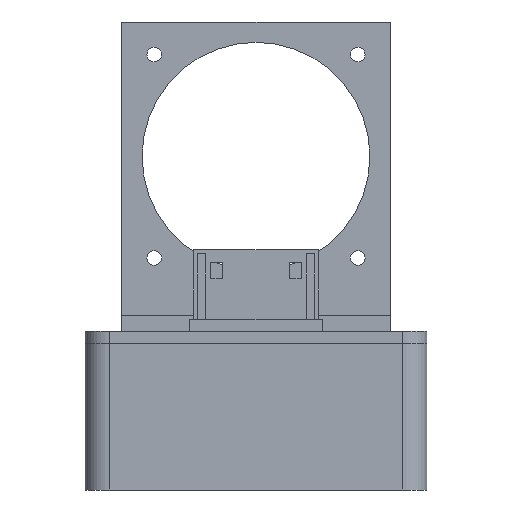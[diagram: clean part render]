
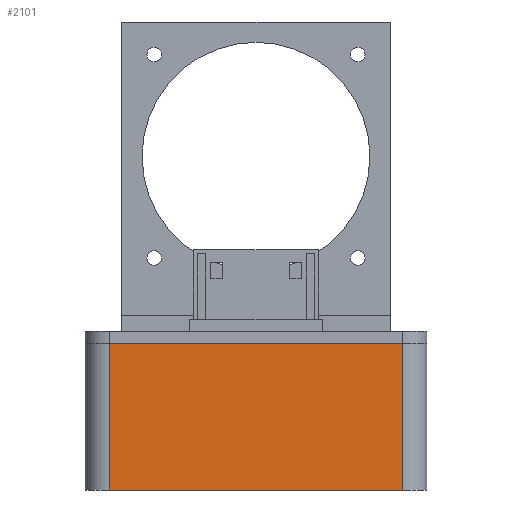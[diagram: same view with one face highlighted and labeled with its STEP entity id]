
A CAD part, front view. The second image highlights one B-rep face of the part: STEP entity #2101.
In plain terms, the highlighted planar face has unit normal (0, -1, 0).
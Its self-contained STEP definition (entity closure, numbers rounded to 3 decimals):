
#82 = PLANE('',#83);
#83 = AXIS2_PLACEMENT_3D('',#84,#85,#86);
#84 = CARTESIAN_POINT('',(-42.,-83.,36.));
#85 = DIRECTION('',(0.,0.,1.));
#86 = DIRECTION('',(1.,0.,0.));
#110 = CYLINDRICAL_SURFACE('',#111,6.);
#111 = AXIS2_PLACEMENT_3D('',#112,#113,#114);
#112 = CARTESIAN_POINT('',(-36.,-77.,0.));
#113 = DIRECTION('',(0.,0.,1.));
#114 = DIRECTION('',(-1.,-0.,0.));
#138 = PLANE('',#139);
#139 = AXIS2_PLACEMENT_3D('',#140,#141,#142);
#140 = CARTESIAN_POINT('',(-42.,-83.,0.));
#141 = DIRECTION('',(0.,0.,1.));
#142 = DIRECTION('',(1.,0.,0.));
#432 = VERTEX_POINT('',#433);
#433 = CARTESIAN_POINT('',(-36.,-83.,36.));
#455 = EDGE_CURVE('',#432,#456,#458,.T.);
#456 = VERTEX_POINT('',#457);
#457 = CARTESIAN_POINT('',(36.,-83.,36.));
#458 = SURFACE_CURVE('',#459,(#463,#470),.PCURVE_S1.);
#459 = LINE('',#460,#461);
#460 = CARTESIAN_POINT('',(-42.,-83.,36.));
#461 = VECTOR('',#462,1.);
#462 = DIRECTION('',(1.,0.,0.));
#463 = PCURVE('',#82,#464);
#464 = DEFINITIONAL_REPRESENTATION('',(#465),#469);
#465 = LINE('',#466,#467);
#466 = CARTESIAN_POINT('',(0.,0.));
#467 = VECTOR('',#468,1.);
#468 = DIRECTION('',(1.,0.));
#469 = ( GEOMETRIC_REPRESENTATION_CONTEXT(2) 
PARAMETRIC_REPRESENTATION_CONTEXT() REPRESENTATION_CONTEXT('2D SPACE',''
  ) );
#470 = PCURVE('',#471,#476);
#471 = PLANE('',#472);
#472 = AXIS2_PLACEMENT_3D('',#473,#474,#475);
#473 = CARTESIAN_POINT('',(-42.,-83.,0.));
#474 = DIRECTION('',(0.,1.,0.));
#475 = DIRECTION('',(0.,0.,1.));
#476 = DEFINITIONAL_REPRESENTATION('',(#477),#481);
#477 = LINE('',#478,#479);
#478 = CARTESIAN_POINT('',(36.,0.));
#479 = VECTOR('',#480,1.);
#480 = DIRECTION('',(0.,1.));
#481 = ( GEOMETRIC_REPRESENTATION_CONTEXT(2) 
PARAMETRIC_REPRESENTATION_CONTEXT() REPRESENTATION_CONTEXT('2D SPACE',''
  ) );
#504 = CYLINDRICAL_SURFACE('',#505,6.);
#505 = AXIS2_PLACEMENT_3D('',#506,#507,#508);
#506 = CARTESIAN_POINT('',(36.,-77.,0.));
#507 = DIRECTION('',(0.,0.,1.));
#508 = DIRECTION('',(1.,0.,-0.));
#997 = VERTEX_POINT('',#998);
#998 = CARTESIAN_POINT('',(-36.,-83.,0.));
#1020 = EDGE_CURVE('',#997,#432,#1021,.T.);
#1021 = SURFACE_CURVE('',#1022,(#1026,#1033),.PCURVE_S1.);
#1022 = LINE('',#1023,#1024);
#1023 = CARTESIAN_POINT('',(-36.,-83.,0.));
#1024 = VECTOR('',#1025,1.);
#1025 = DIRECTION('',(0.,0.,1.));
#1026 = PCURVE('',#110,#1027);
#1027 = DEFINITIONAL_REPRESENTATION('',(#1028),#1032);
#1028 = LINE('',#1029,#1030);
#1029 = CARTESIAN_POINT('',(1.571,0.));
#1030 = VECTOR('',#1031,1.);
#1031 = DIRECTION('',(0.,1.));
#1032 = ( GEOMETRIC_REPRESENTATION_CONTEXT(2) 
PARAMETRIC_REPRESENTATION_CONTEXT() REPRESENTATION_CONTEXT('2D SPACE',''
  ) );
#1033 = PCURVE('',#471,#1034);
#1034 = DEFINITIONAL_REPRESENTATION('',(#1035),#1039);
#1035 = LINE('',#1036,#1037);
#1036 = CARTESIAN_POINT('',(0.,6.));
#1037 = VECTOR('',#1038,1.);
#1038 = DIRECTION('',(1.,0.));
#1039 = ( GEOMETRIC_REPRESENTATION_CONTEXT(2) 
PARAMETRIC_REPRESENTATION_CONTEXT() REPRESENTATION_CONTEXT('2D SPACE',''
  ) );
#1102 = EDGE_CURVE('',#997,#1103,#1105,.T.);
#1103 = VERTEX_POINT('',#1104);
#1104 = CARTESIAN_POINT('',(36.,-83.,0.));
#1105 = SURFACE_CURVE('',#1106,(#1110,#1117),.PCURVE_S1.);
#1106 = LINE('',#1107,#1108);
#1107 = CARTESIAN_POINT('',(-42.,-83.,0.));
#1108 = VECTOR('',#1109,1.);
#1109 = DIRECTION('',(1.,0.,0.));
#1110 = PCURVE('',#138,#1111);
#1111 = DEFINITIONAL_REPRESENTATION('',(#1112),#1116);
#1112 = LINE('',#1113,#1114);
#1113 = CARTESIAN_POINT('',(0.,0.));
#1114 = VECTOR('',#1115,1.);
#1115 = DIRECTION('',(1.,0.));
#1116 = ( GEOMETRIC_REPRESENTATION_CONTEXT(2) 
PARAMETRIC_REPRESENTATION_CONTEXT() REPRESENTATION_CONTEXT('2D SPACE',''
  ) );
#1117 = PCURVE('',#471,#1118);
#1118 = DEFINITIONAL_REPRESENTATION('',(#1119),#1123);
#1119 = LINE('',#1120,#1121);
#1120 = CARTESIAN_POINT('',(0.,0.));
#1121 = VECTOR('',#1122,1.);
#1122 = DIRECTION('',(0.,1.));
#1123 = ( GEOMETRIC_REPRESENTATION_CONTEXT(2) 
PARAMETRIC_REPRESENTATION_CONTEXT() REPRESENTATION_CONTEXT('2D SPACE',''
  ) );
#2101 = ADVANCED_FACE('',(#2102),#471,.F.);
#2102 = FACE_BOUND('',#2103,.F.);
#2103 = EDGE_LOOP('',(#2104,#2105,#2106,#2107));
#2104 = ORIENTED_EDGE('',*,*,#1102,.F.);
#2105 = ORIENTED_EDGE('',*,*,#1020,.T.);
#2106 = ORIENTED_EDGE('',*,*,#455,.T.);
#2107 = ORIENTED_EDGE('',*,*,#2108,.F.);
#2108 = EDGE_CURVE('',#1103,#456,#2109,.T.);
#2109 = SURFACE_CURVE('',#2110,(#2114,#2121),.PCURVE_S1.);
#2110 = LINE('',#2111,#2112);
#2111 = CARTESIAN_POINT('',(36.,-83.,0.));
#2112 = VECTOR('',#2113,1.);
#2113 = DIRECTION('',(0.,0.,1.));
#2114 = PCURVE('',#471,#2115);
#2115 = DEFINITIONAL_REPRESENTATION('',(#2116),#2120);
#2116 = LINE('',#2117,#2118);
#2117 = CARTESIAN_POINT('',(0.,78.));
#2118 = VECTOR('',#2119,1.);
#2119 = DIRECTION('',(1.,0.));
#2120 = ( GEOMETRIC_REPRESENTATION_CONTEXT(2) 
PARAMETRIC_REPRESENTATION_CONTEXT() REPRESENTATION_CONTEXT('2D SPACE',''
  ) );
#2121 = PCURVE('',#504,#2122);
#2122 = DEFINITIONAL_REPRESENTATION('',(#2123),#2127);
#2123 = LINE('',#2124,#2125);
#2124 = CARTESIAN_POINT('',(-1.571,0.));
#2125 = VECTOR('',#2126,1.);
#2126 = DIRECTION('',(-0.,1.));
#2127 = ( GEOMETRIC_REPRESENTATION_CONTEXT(2) 
PARAMETRIC_REPRESENTATION_CONTEXT() REPRESENTATION_CONTEXT('2D SPACE',''
  ) );
